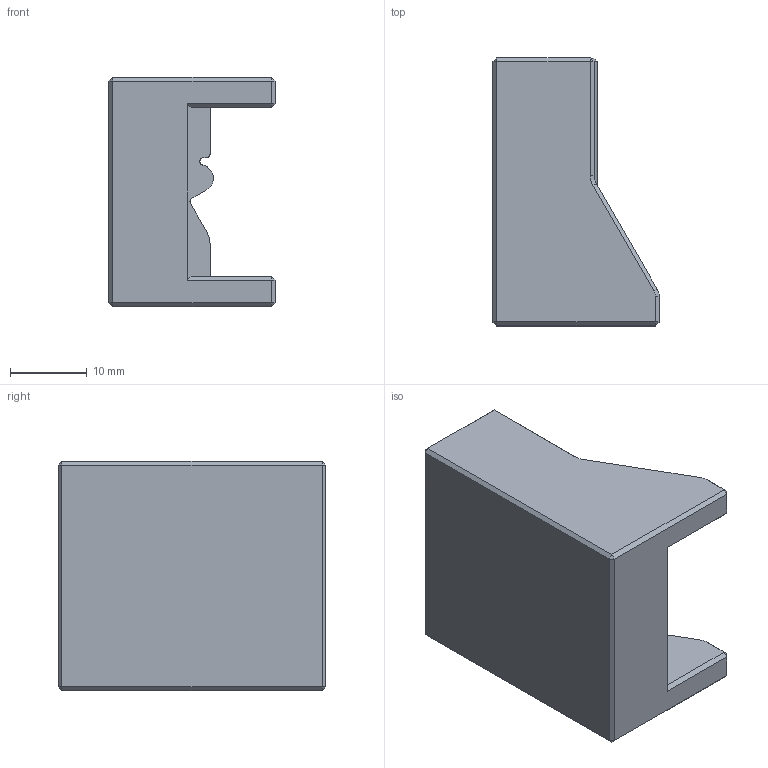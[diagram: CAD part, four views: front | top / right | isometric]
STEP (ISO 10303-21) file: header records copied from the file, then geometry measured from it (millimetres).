
FILE_DESCRIPTION (( 'STEP AP214' ), '1' );
FILE_NAME ('TRL-0036-A.STEP', '2021-06-25T18:40:19', ( '' ), ( '' ), 'SwSTEP 2.0', 'SolidWorks 2016', '' );
FILE_SCHEMA (( 'AUTOMOTIVE_DESIGN' ));
Length unit declared in the file: millimetre
Products named in the file (1): TRL-0036-A
Bounding box: 21.75 x 35 x 30 mm (x, y, z)
Volume: 14226.7 mm3; surface area: 4278.8 mm2
Topology: 1 solids, 1 shells, 80 faces, 179 edges, 100 vertices
Faces by surface type: plane 56, cone 14, cylinder 10
Entity records: 2163 total; most frequent: CARTESIAN_POINT 391, DIRECTION 357, ORIENTED_EDGE 356, EDGE_CURVE 178, LINE 145, VECTOR 145, AXIS2_PLACEMENT_3D 106, VERTEX_POINT 100
